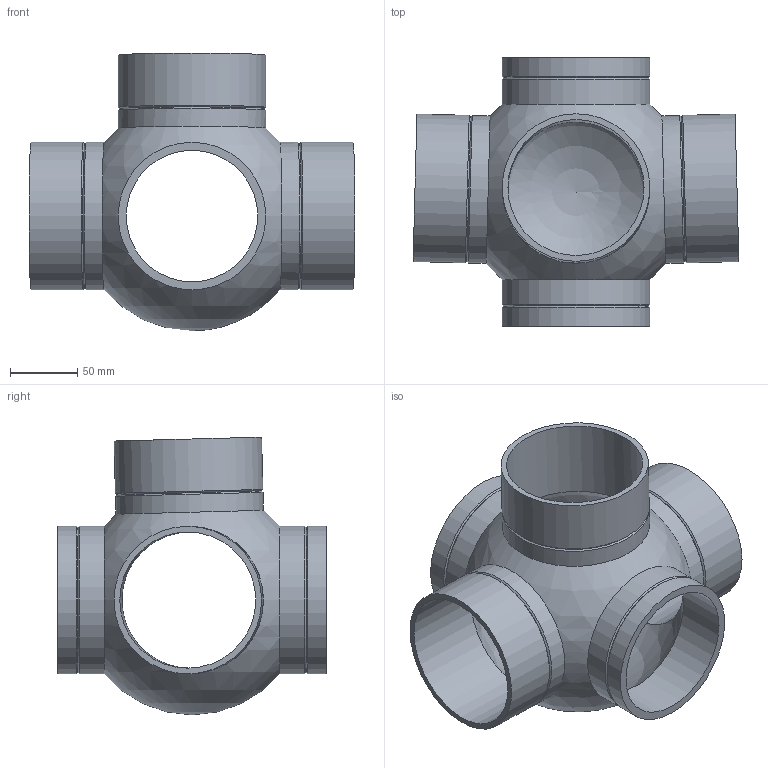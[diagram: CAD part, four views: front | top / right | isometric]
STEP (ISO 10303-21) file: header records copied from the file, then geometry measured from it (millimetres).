
FILE_DESCRIPTION(/* description */ (''),/* implementation_level */ '2;1');
FILE_NAME(/* name */ 'Z:\Geberit\Export\NewStep\367605.stp',/* time_stamp */ '2014-04-02T07:57:59+02:00',/* author */ ('nelson'),/* organization */ (''),/* preprocessor_version */ 'ST-DEVELOPER v15.2',/* originating_system */ 'Autodesk Inventor 2014',/* authorisation */ '');
FILE_SCHEMA (('AUTOMOTIVE_DESIGN { 1 0 10303 214 3 1 1 }'));
Length unit declared in the file: millimetre
Products named in the file (1): 367605
Bounding box: 242.8 x 200 x 206.9 mm (x, y, z)
Volume: 601059.4 mm3; surface area: 242534.9 mm2
Topology: 1 solids, 1 shells, 32 faces, 82 edges, 53 vertices
Faces by surface type: cylinder 15, cone 10, plane 5, sphere 2
Full cylindrical faces by diameter (mm): 98 x2, 101.4 x3, 110 x10
Entity records: 743 total; most frequent: DIRECTION 136, CARTESIAN_POINT 103, EDGE_LOOP 70, ORIENTED_EDGE 70, AXIS2_PLACEMENT_3D 68, FACE_BOUND 45, CIRCLE 35, VERTEX_POINT 35
